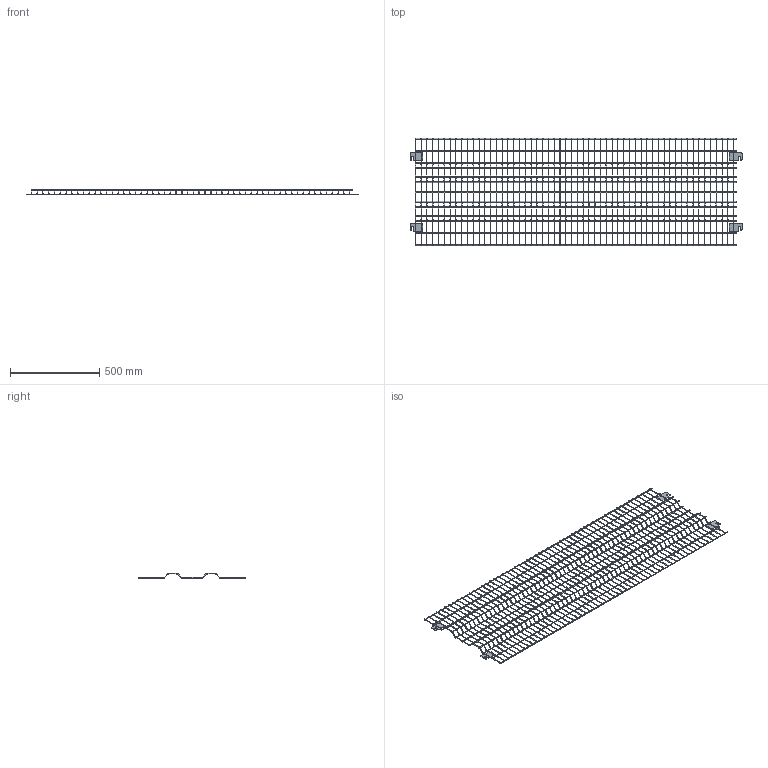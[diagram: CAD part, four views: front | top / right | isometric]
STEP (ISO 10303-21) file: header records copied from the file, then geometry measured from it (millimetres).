
FILE_DESCRIPTION (( 'STEP AP203' ), '1' );
FILE_NAME ('Frameless Panel 1800 x 600.STEP', '2023-09-15T16:48:07', ( '' ), ( '' ), 'SwSTEP 2.0', 'SolidWorks 2023', '' );
FILE_SCHEMA (( 'CONFIG_CONTROL_DESIGN' ));
Length unit declared in the file: millimetre
Products named in the file (1): Frameless Panel 1800 x 600
Bounding box: 1856 x 600 x 31.97 mm (x, y, z)
Volume: 786377.9 mm3; surface area: 774568.9 mm2
Topology: 73 solids, 73 shells, 2244 faces, 4390 edges, 2292 vertices
Faces by surface type: cylinder 1174, torus 896, plane 174
Entity records: 56627 total; most frequent: DIRECTION 12012, CARTESIAN_POINT 8927, ORIENTED_EDGE 8780, AXIS2_PLACEMENT_3D 5377, EDGE_CURVE 4390, CIRCLE 3132, VERTEX_POINT 2292, EDGE_LOOP 2244
